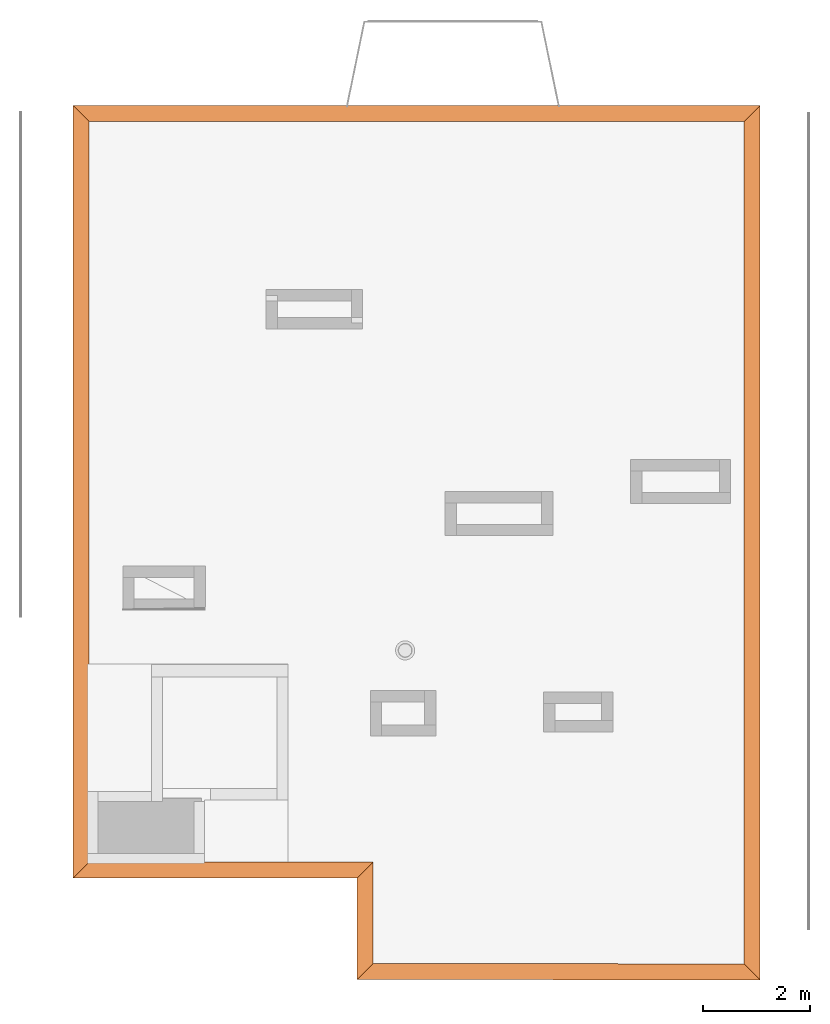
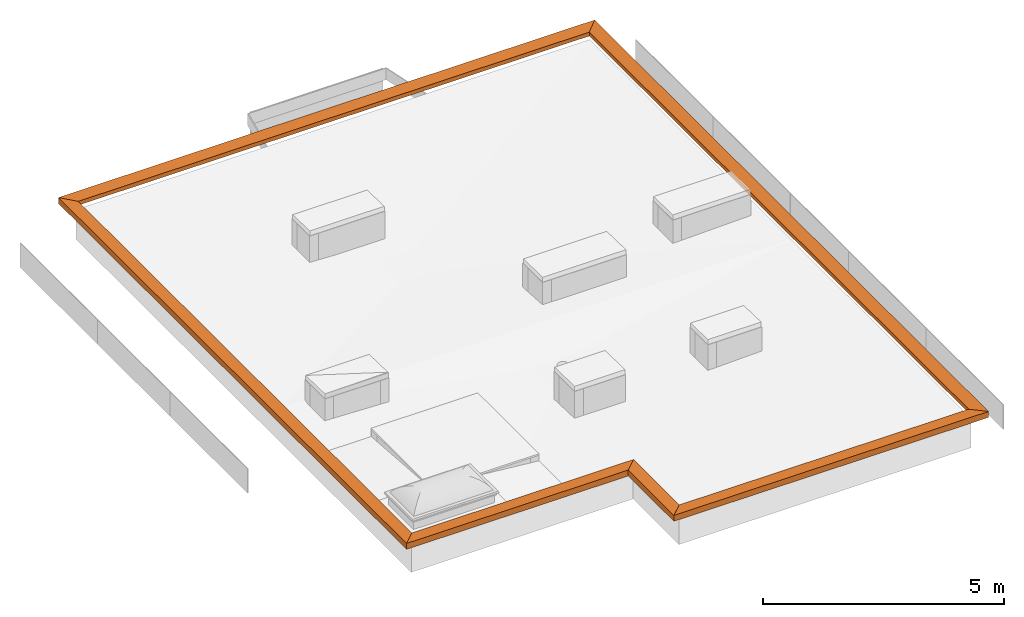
# One storey, part 6 of 6: 6 proxies.
"""IFC2X3 building model written with IfcOpenShell, lengths in millimetres."""

from ifc_helpers import new_model, entity, si_unit, converted_unit, direction, frame, origin, place, context, subcontext, project, spatial, faceted_brep, source, transform, mapped, material, type_object, type_shapes, element, save


model = new_model("IFC2X3")

# Units and contexts
model_context = context("Model", 3, precision=0.01, world=origin(), true_north=direction((6.123233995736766e-17, 1.0)))
plan_context = context("Plan", 3, precision=0.01, world=origin(), true_north=direction((6.123233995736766e-17, 1.0)))
body_context = subcontext(model_context, "Body", "Model", "MODEL_VIEW")
ifc_project = project(units=[si_unit("LENGTHUNIT", "METRE", prefix="MILLI"), converted_unit("PLANEANGLEUNIT", "DEGREE", entity("IfcPlaneAngleMeasure", 0.017453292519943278), si_unit("PLANEANGLEUNIT", "RADIAN"), dimensions=[0, 0, 0, 0, 0, 0, 0]), si_unit("AREAUNIT", "SQUARE_METRE")], contexts=[model_context, plan_context])

# Site, building, storey
site_placement = place(None, origin())
site = spatial("IfcSite", under=ifc_project, at=site_placement, Name="Default", CompositionType="ELEMENT")
building_placement = place(site_placement, origin())
building = spatial("IfcBuilding", under=site, at=building_placement, CompositionType="ELEMENT")
storey_placement = place(building_placement, frame((0.0, 0.0, 16500.0)))
storey = spatial("IfcBuildingStorey", under=building, at=storey_placement, Name="Parapet", CompositionType="ELEMENT", Elevation=16499.999999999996)

# Proxies
ifc_material = material(Name="_K. Metall. Plekk. Värvitud. Must")
building_element_proxy_type_1 = type_object("IfcBuildingElementProxyType", Name="HR_Flashing_Parapet_v2:Default", PredefinedType="NOTDEFINED", material=ifc_material)
shared_shape_1 = source(origin(), body_context, "Body", "Brep", [
    faceted_brep([(300.0, -300.0, 30.0), (0.0, 0.0, 50.0), (0.0, 0.0, -100.0), (10.0, -10.0, -82.67949192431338), (9.133974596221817, -9.13397459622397, -82.17949192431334), (1.0, -1.0, -96.26794919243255), (1.0, -1.0, 48.931113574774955), (299.0, -299.0, 29.064446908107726), (299.0, -299.0, -66.26794919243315), (290.8660254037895, -290.86602540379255, -52.17949192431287), (290.0, -290.0, -52.67949192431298), (300.0, -300.0, -70.0), (2190.9638288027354, -300.0, 30.0), (1890.9638288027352, 0.0, 50.0), (1890.9638288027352, 0.0, -100.0), (1891.9638288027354, -1.0, -96.26794919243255), (1891.9638288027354, -1.0, 48.931113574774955), (2189.963828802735, -299.0, 29.064446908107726), (2189.963828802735, -299.0, -66.26794919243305), (2190.9638288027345, -300.0, -70.0), (2180.963828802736, -290.0, -52.67949192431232), (2181.829854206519, -290.86602540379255, -52.17949192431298), (1900.0978033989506, -9.133974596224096, -82.1794919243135), (1900.9638288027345, -10.0, -82.67949192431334)], [[[0, 1, 2, 3, 4, 5, 6, 7, 8, 9, 10, 11]], [[1, 0, 12, 13]], [[2, 1, 13, 14]], [[6, 5, 15, 16]], [[7, 6, 16, 17]], [[8, 7, 17, 18]], [[0, 11, 19, 12]], [[13, 12, 19, 20, 21, 18, 17, 16, 15, 22, 23, 14]], [[3, 2, 14, 23]], [[4, 3, 23, 22]], [[5, 4, 22, 15]], [[9, 8, 18, 21]], [[10, 9, 21, 20]], [[11, 10, 20, 19]]]),
])
type_shapes(building_element_proxy_type_1, [shared_shape_1])
proxy_1_placement = place(storey_placement, frame((4840.0, -450.9638288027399, 0.0), z_axis=(0.0, 0.0, 1.0), x_axis=(0.0, 1.0, 0.0)))
element("IfcBuildingElementProxy", 1, at=proxy_1_placement, inside=storey, type_object=building_element_proxy_type_1, material=ifc_material, Name="HR_Flashing_Parapet_v2:Default", ObjectType="HR_Flashing_Parapet_v2:Default", context=body_context, shape_type="MappedRepresentation", body=[
    mapped(shared_shape_1, transform((0.0, 0.0, 0.0), scale=1.0)),
])
building_element_proxy_type_2 = type_object("IfcBuildingElementProxyType", Name="HR_Flashing_Parapet_v2:Default", PredefinedType="NOTDEFINED", material=ifc_material)
shared_shape_2 = source(origin(), body_context, "Body", "Brep", [
    faceted_brep([(-300.0, -300.0, 30.0), (0.0, 0.0, 50.0), (0.0, 0.0, -100.0), (-10.0, -10.0, -82.67949192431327), (-9.133974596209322, -9.13397459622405, -82.1794919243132), (-1.0, -1.0, -96.26794919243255), (-1.0, -1.0, 48.93111357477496), (-299.0, -299.0, 29.064446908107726), (-299.0, -299.0, -66.26794919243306), (-290.8660254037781, -290.8660254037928, -52.17949192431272), (-290.0, -290.0, -52.67949192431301), (-300.0, -300.0, -70.0), (5000.0, -300.0, 30.0), (5300.0, 0.0, 50.0), (5300.0, 0.0, -100.0), (5299.0, -1.0, -96.26794919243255), (5299.0, -1.0, 48.931113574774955), (5001.0, -299.0, 29.064446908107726), (5001.0, -299.0, -66.26794919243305), (5000.0, -300.0, -70.0), (5010.0, -290.0, -52.67949192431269), (5009.133974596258, -290.8660254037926, -52.17949192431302), (5290.866025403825, -9.133974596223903, -82.17949192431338), (5290.0, -10.0, -82.67949192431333)], [[[0, 1, 2, 3, 4, 5, 6, 7, 8, 9, 10, 11]], [[1, 0, 12, 13]], [[2, 1, 13, 14]], [[6, 5, 15, 16]], [[7, 6, 16, 17]], [[8, 7, 17, 18]], [[0, 11, 19, 12]], [[13, 12, 19, 20, 21, 18, 17, 16, 15, 22, 23, 14]], [[3, 2, 14, 23]], [[4, 3, 23, 22]], [[5, 4, 22, 15]], [[9, 8, 18, 21]], [[10, 9, 21, 20]], [[11, 10, 20, 19]]]),
])
type_shapes(building_element_proxy_type_2, [shared_shape_2])
proxy_2_placement = place(storey_placement, frame((4840.0, 1440.0, 0.0), z_axis=(0.0, 0.0, 1.0), x_axis=(-1.0, 0.0, 0.0)))
element("IfcBuildingElementProxy", 2, at=proxy_2_placement, inside=storey, type_object=building_element_proxy_type_2, material=ifc_material, Name="HR_Flashing_Parapet_v2:Default", ObjectType="HR_Flashing_Parapet_v2:Default", context=body_context, shape_type="MappedRepresentation", body=[
    mapped(shared_shape_2, transform((0.0, 0.0, 0.0), scale=1.0)),
])
building_element_proxy_type_3 = type_object("IfcBuildingElementProxyType", Name="HR_Flashing_Parapet_v2:Default", PredefinedType="NOTDEFINED", material=ifc_material)
shared_shape_3 = source(origin(), body_context, "Body", "Brep", [
    faceted_brep([(300.0, -300.0, 30.0), (0.0, 0.0, 50.0), (0.0, 0.0, -100.0), (10.0, -10.0, -82.67949192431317), (9.13397459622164, -9.133974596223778, -82.17949192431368), (1.0, -1.0, -96.26794919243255), (1.0, -1.0, 48.93111357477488), (299.0, -299.0, 29.064446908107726), (299.0, -299.0, -66.26794919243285), (290.8660254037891, -290.8660254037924, -52.179491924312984), (290.0, -290.0, -52.67949192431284), (300.0, -300.0, -70.0), (14120.0, -300.0, 30.0), (14420.0, 0.0, 50.0), (14420.0, 0.0, -100.0), (14419.0, -1.0, -96.26794919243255), (14419.0, -1.0, 48.931113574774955), (14121.0, -299.0, 29.064446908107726), (14121.0, -299.0, -66.26794919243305), (14120.0, -300.0, -70.0), (14130.0, -290.0, -52.67949192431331), (14129.13397459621, -290.86602540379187, -52.179491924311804), (14410.866025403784, -9.133974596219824, -82.17949192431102), (14410.0, -10.0, -82.67949192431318)], [[[0, 1, 2, 3, 4, 5, 6, 7, 8, 9, 10, 11]], [[1, 0, 12, 13]], [[2, 1, 13, 14]], [[6, 5, 15, 16]], [[7, 6, 16, 17]], [[8, 7, 17, 18]], [[0, 11, 19, 12]], [[13, 12, 19, 20, 21, 18, 17, 16, 15, 22, 23, 14]], [[3, 2, 14, 23]], [[4, 3, 23, 22]], [[5, 4, 22, 15]], [[9, 8, 18, 21]], [[10, 9, 21, 20]], [[11, 10, 20, 19]]]),
])
type_shapes(building_element_proxy_type_3, [shared_shape_3])
proxy_3_placement = place(storey_placement, frame((-460.0, 1440.0, 0.0), z_axis=(0.0, 0.0, 1.0), x_axis=(0.0, 1.0, 0.0)))
element("IfcBuildingElementProxy", 3, at=proxy_3_placement, inside=storey, type_object=building_element_proxy_type_3, material=ifc_material, Name="HR_Flashing_Parapet_v2:Default", ObjectType="HR_Flashing_Parapet_v2:Default", context=body_context, shape_type="MappedRepresentation", body=[
    mapped(shared_shape_3, transform((0.0, 0.0, 0.0), scale=1.0)),
])
building_element_proxy_type_4 = type_object("IfcBuildingElementProxyType", Name="HR_Flashing_Parapet_v2:Default", PredefinedType="NOTDEFINED", material=ifc_material)
shared_shape_4 = source(origin(), body_context, "Body", "Brep", [
    faceted_brep([(300.0, -300.0, 30.0), (0.0, 0.0, 50.0), (0.0, 0.0, -100.0), (10.0, -10.0, -82.67949192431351), (9.133974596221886, -9.13397459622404, -82.17949192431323), (1.0, -1.0, -96.26794919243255), (1.0, -1.0, 48.931113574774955), (299.0, -299.0, 29.064446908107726), (299.0, -299.0, -66.26794919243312), (290.8660254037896, -290.8660254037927, -52.17949192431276), (290.0, -290.0, -52.67949192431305), (300.0, -300.0, -70.0), (12520.0, -300.0, 30.0), (12820.0, 0.0, 50.0), (12820.0, 0.0, -100.0), (12819.0, -1.0, -96.26794919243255), (12819.0, -1.0, 48.931113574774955), (12521.0, -299.0, 29.064446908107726), (12521.0, -299.0, -66.26794919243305), (12520.0, -300.0, -70.0), (12530.0, -290.0, -52.67949192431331), (12529.133974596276, -290.8660254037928, -52.179491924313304), (12810.866025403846, -9.133974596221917, -82.17949192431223), (12810.0, -10.0, -82.67949192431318)], [[[0, 1, 2, 3, 4, 5, 6, 7, 8, 9, 10, 11]], [[1, 0, 12, 13]], [[2, 1, 13, 14]], [[6, 5, 15, 16]], [[7, 6, 16, 17]], [[8, 7, 17, 18]], [[0, 11, 19, 12]], [[13, 12, 19, 20, 21, 18, 17, 16, 15, 22, 23, 14]], [[3, 2, 14, 23]], [[4, 3, 23, 22]], [[5, 4, 22, 15]], [[9, 8, 18, 21]], [[10, 9, 21, 20]], [[11, 10, 20, 19]]]),
])
type_shapes(building_element_proxy_type_4, [shared_shape_4])
proxy_4_placement = place(storey_placement, frame((-460.0, 15860.0, 0.0)))
element("IfcBuildingElementProxy", 4, at=proxy_4_placement, inside=storey, type_object=building_element_proxy_type_4, material=ifc_material, Name="HR_Flashing_Parapet_v2:Default", ObjectType="HR_Flashing_Parapet_v2:Default", context=body_context, shape_type="MappedRepresentation", body=[
    mapped(shared_shape_4, transform((0.0, 0.0, 0.0), scale=1.0)),
])
building_element_proxy_type_5 = type_object("IfcBuildingElementProxyType", Name="HR_Flashing_Parapet_v2:Default", PredefinedType="NOTDEFINED", material=ifc_material)
shared_shape_5 = source(origin(), body_context, "Body", "Brep", [
    faceted_brep([(300.0, -300.0, 30.0), (0.0, 0.0, 50.0), (0.0, 0.0, -100.0), (10.0, -10.0, -82.679491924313), (9.133974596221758, -9.133974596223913, -82.17949192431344), (1.0, -1.0, -96.26794919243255), (1.0, -1.0, 48.931113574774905), (299.0, -299.0, 29.064446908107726), (299.0, -299.0, -66.2679491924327), (290.8660254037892, -290.86602540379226, -52.17949192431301), (290.0, -290.0, -52.67949192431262), (300.0, -300.0, -70.0), (16020.036214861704, -300.0, 30.0), (16320.036214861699, 0.0, 50.0), (16320.036214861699, 0.0, -100.0), (16319.036214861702, -1.0, -96.26794919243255), (16319.036214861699, -1.0, 48.931113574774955), (16021.036214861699, -299.0, 29.064446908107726), (16021.036214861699, -299.0, -66.26794919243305), (16020.0362148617, -300.0, -70.0), (16030.036214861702, -290.0, -52.67949192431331), (16029.170189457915, -290.8660254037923, -52.17949192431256), (16310.902240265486, -9.133974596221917, -82.17949192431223), (16310.036214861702, -10.0, -82.67949192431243)], [[[0, 1, 2, 3, 4, 5, 6, 7, 8, 9, 10, 11]], [[1, 0, 12, 13]], [[2, 1, 13, 14]], [[6, 5, 15, 16]], [[7, 6, 16, 17]], [[8, 7, 17, 18]], [[0, 11, 19, 12]], [[13, 12, 19, 20, 21, 18, 17, 16, 15, 22, 23, 14]], [[3, 2, 14, 23]], [[4, 3, 23, 22]], [[5, 4, 22, 15]], [[9, 8, 18, 21]], [[10, 9, 21, 20]], [[11, 10, 20, 19]]]),
])
type_shapes(building_element_proxy_type_5, [shared_shape_5])
proxy_5_placement = place(storey_placement, frame((12360.0, 15860.0, 0.0), z_axis=(0.0, 0.0, 1.0), x_axis=(0.0, -1.0, 0.0)))
element("IfcBuildingElementProxy", 5, at=proxy_5_placement, inside=storey, type_object=building_element_proxy_type_5, material=ifc_material, Name="HR_Flashing_Parapet_v2:Default", ObjectType="HR_Flashing_Parapet_v2:Default", context=body_context, shape_type="MappedRepresentation", body=[
    mapped(shared_shape_5, transform((0.0, 0.0, 0.0), scale=1.0)),
])
building_element_proxy_type_6 = type_object("IfcBuildingElementProxyType", Name="HR_Flashing_Parapet_v2:Default", PredefinedType="NOTDEFINED", material=ifc_material)
shared_shape_6 = source(origin(), body_context, "Body", "Brep", [
    faceted_brep([(300.0, -300.0, 30.0), (0.0, 0.0, 50.0), (0.0, 0.0, -100.0), (10.0, -10.0, -82.67949192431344), (9.13397459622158, -9.133974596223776, -82.17949192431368), (1.0, -1.0, -96.26794919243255), (1.0, -1.0, 48.93111357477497), (299.0, -299.0, 29.064446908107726), (299.0, -299.0, -66.2679491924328), (290.8660254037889, -290.86602540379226, -52.17949192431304), (290.0, -290.0, -52.67949192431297), (300.0, -300.0, -70.0), (7220.005472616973, -300.0, 30.0), (7520.005472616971, 0.0, 50.0), (7520.005472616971, 0.0, -100.0), (7519.005472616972, -1.0, -96.26794919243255), (7519.005472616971, -1.0, 48.931113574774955), (7221.005472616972, -299.0, 29.064446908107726), (7221.005472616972, -299.0, -66.26794919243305), (7220.005472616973, -300.0, -70.0), (7230.005472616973, -290.0, -52.67949192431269), (7229.139447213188, -290.8660254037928, -52.17949192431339), (7510.871498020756, -9.133974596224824, -82.17949192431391), (7510.005472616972, -10.0, -82.67949192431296)], [[[0, 1, 2, 3, 4, 5, 6, 7, 8, 9, 10, 11]], [[1, 0, 12, 13]], [[2, 1, 13, 14]], [[6, 5, 15, 16]], [[7, 6, 16, 17]], [[8, 7, 17, 18]], [[0, 11, 19, 12]], [[13, 12, 19, 20, 21, 18, 17, 16, 15, 22, 23, 14]], [[3, 2, 14, 23]], [[4, 3, 23, 22]], [[5, 4, 22, 15]], [[9, 8, 18, 21]], [[10, 9, 21, 20]], [[11, 10, 20, 19]]]),
])
type_shapes(building_element_proxy_type_6, [shared_shape_6])
proxy_6_placement = place(storey_placement, frame((12360.0, -460.0362148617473, 0.0), z_axis=(0.0, 0.0, 1.0), x_axis=(-0.9999992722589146, 0.0012064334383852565, 0.0)))
element("IfcBuildingElementProxy", 6, at=proxy_6_placement, inside=storey, type_object=building_element_proxy_type_6, material=ifc_material, Name="HR_Flashing_Parapet_v2:Default", ObjectType="HR_Flashing_Parapet_v2:Default", context=body_context, shape_type="MappedRepresentation", body=[
    mapped(shared_shape_6, transform((0.0, 0.0, 0.0), scale=1.0)),
])

save(model, "model.ifc")
